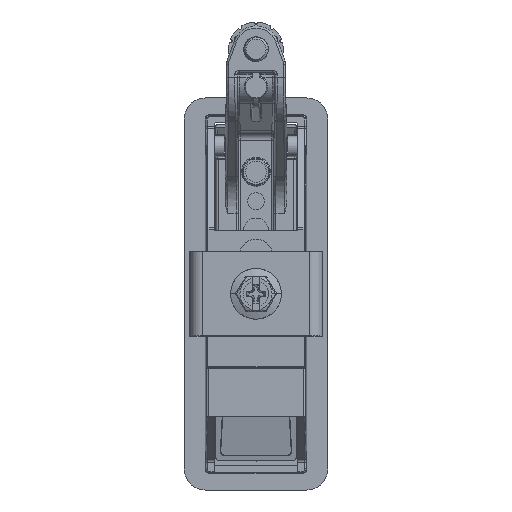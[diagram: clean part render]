
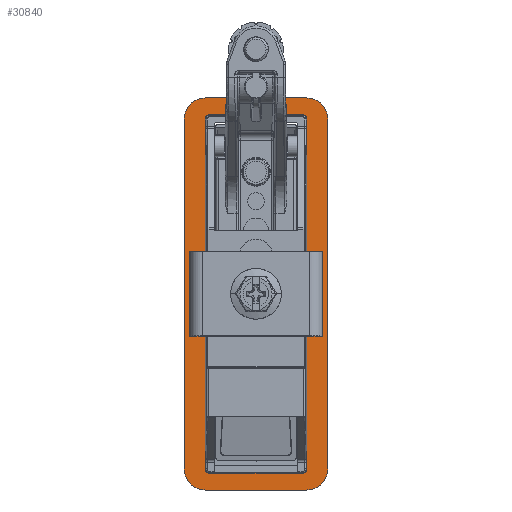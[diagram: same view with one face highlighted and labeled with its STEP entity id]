
A CAD part, top view. The second image highlights one B-rep face of the part: STEP entity #30840.
In plain terms, the highlighted planar face has unit normal (0, 0, 1).
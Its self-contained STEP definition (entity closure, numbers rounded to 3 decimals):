
#630 = AXIS2_PLACEMENT_3D ( 'NONE', #6444, #35093, #12991 ) ;
#750 = VERTEX_POINT ( 'NONE', #17370 ) ;
#922 = CARTESIAN_POINT ( 'NONE',  ( 12., -46.5, 1. ) ) ;
#2091 = LINE ( 'NONE', #24186, #14002 ) ;
#2219 = CARTESIAN_POINT ( 'NONE',  ( 12., 41.5, 1. ) ) ;
#2425 = CARTESIAN_POINT ( 'NONE',  ( 17., 41.5, 1. ) ) ;
#3526 = CARTESIAN_POINT ( 'NONE',  ( -11., -42.5, 1. ) ) ;
#3669 = VERTEX_POINT ( 'NONE', #37555 ) ;
#3930 = ORIENTED_EDGE ( 'NONE', *, *, #30262, .T. ) ;
#4011 = DIRECTION ( 'NONE',  ( 0., 0., 1. ) ) ;
#4304 = CARTESIAN_POINT ( 'NONE',  ( 12., -41.5, 1. ) ) ;
#4394 = ORIENTED_EDGE ( 'NONE', *, *, #37923, .T. ) ;
#4487 = CARTESIAN_POINT ( 'NONE',  ( -11., -41.5, 1. ) ) ;
#4649 = VECTOR ( 'NONE', #7349, 1000. ) ;
#5471 = LINE ( 'NONE', #34110, #17605 ) ;
#5675 = CARTESIAN_POINT ( 'NONE',  ( 12., -41.5, 1. ) ) ;
#5739 = DIRECTION ( 'NONE',  ( -1., 0., 0. ) ) ;
#5768 = ORIENTED_EDGE ( 'NONE', *, *, #13887, .T. ) ;
#5963 = FACE_BOUND ( 'NONE', #36370, .T. ) ;
#6444 = CARTESIAN_POINT ( 'NONE',  ( 11., 41.5, 1. ) ) ;
#6452 = DIRECTION ( 'NONE',  ( 0., 1., 0. ) ) ;
#7030 = AXIS2_PLACEMENT_3D ( 'NONE', #35106, #4011, #6452 ) ;
#7349 = DIRECTION ( 'NONE',  ( -1., 0., 0. ) ) ;
#7588 = AXIS2_PLACEMENT_3D ( 'NONE', #18773, #47455, #25308 ) ;
#7814 = CARTESIAN_POINT ( 'NONE',  ( -12., -41.5, 1. ) ) ;
#8811 = AXIS2_PLACEMENT_3D ( 'NONE', #10228, #38843, #16737 ) ;
#9766 = CIRCLE ( 'NONE', #630, 1. ) ;
#10152 = EDGE_CURVE ( 'NONE', #38081, #22029, #43141, .T. ) ;
#10228 = CARTESIAN_POINT ( 'NONE',  ( 12., -41.5, 1. ) ) ;
#11887 = CARTESIAN_POINT ( 'NONE',  ( -11., -42.5, 1. ) ) ;
#11891 = EDGE_CURVE ( 'NONE', #35562, #35545, #49911, .T. ) ;
#12051 = DIRECTION ( 'NONE',  ( 0., -1., 0. ) ) ;
#12991 = DIRECTION ( 'NONE',  ( 0., 1., 0. ) ) ;
#13887 = EDGE_CURVE ( 'NONE', #750, #38081, #42681, .T. ) ;
#14002 = VECTOR ( 'NONE', #15208, 1000. ) ;
#14026 = CARTESIAN_POINT ( 'NONE',  ( -17., 41.5, 1. ) ) ;
#14177 = PLANE ( 'NONE',  #23864 ) ;
#14601 = DIRECTION ( 'NONE',  ( 0., 0., 1. ) ) ;
#14663 = VERTEX_POINT ( 'NONE', #11887 ) ;
#15208 = DIRECTION ( 'NONE',  ( 0., 1., 0. ) ) ;
#15614 = ORIENTED_EDGE ( 'NONE', *, *, #11891, .T. ) ;
#15817 = EDGE_CURVE ( 'NONE', #14663, #25961, #44097, .T. ) ;
#15856 = ORIENTED_EDGE ( 'NONE', *, *, #28034, .F. ) ;
#16107 = CIRCLE ( 'NONE', #7030, 5. ) ;
#16339 = LINE ( 'NONE', #29423, #4649 ) ;
#16737 = DIRECTION ( 'NONE',  ( 0., -1., 0. ) ) ;
#16999 = CARTESIAN_POINT ( 'NONE',  ( 12., 41.5, 1. ) ) ;
#17229 = LINE ( 'NONE', #45889, #39303 ) ;
#17370 = CARTESIAN_POINT ( 'NONE',  ( -17., 41.5, 1. ) ) ;
#17605 = VECTOR ( 'NONE', #12051, 1000. ) ;
#17835 = EDGE_CURVE ( 'NONE', #22784, #46244, #32935, .T. ) ;
#18484 = VECTOR ( 'NONE', #26346, 1000. ) ;
#18773 = CARTESIAN_POINT ( 'NONE',  ( 11., -41.5, 1. ) ) ;
#20323 = EDGE_LOOP ( 'NONE', ( #23500, #4394, #5768, #47313, #28128, #29515, #42354, #38769 ) ) ;
#20700 = DIRECTION ( 'NONE',  ( 0., 0., 1. ) ) ;
#21278 = EDGE_CURVE ( 'NONE', #27610, #22311, #16339, .T. ) ;
#21323 = CIRCLE ( 'NONE', #7588, 1. ) ;
#21471 = DIRECTION ( 'NONE',  ( 0., 0., -1. ) ) ;
#22029 = VERTEX_POINT ( 'NONE', #34589 ) ;
#22311 = VERTEX_POINT ( 'NONE', #22634 ) ;
#22634 = CARTESIAN_POINT ( 'NONE',  ( -12., 46.5, 1. ) ) ;
#22784 = VERTEX_POINT ( 'NONE', #5675 ) ;
#23500 = ORIENTED_EDGE ( 'NONE', *, *, #21278, .T. ) ;
#23752 = DIRECTION ( 'NONE',  ( 1., 0., 0. ) ) ;
#23757 = VERTEX_POINT ( 'NONE', #29059 ) ;
#23864 = AXIS2_PLACEMENT_3D ( 'NONE', #42821, #20700, #29709 ) ;
#24186 = CARTESIAN_POINT ( 'NONE',  ( 17., -41.5, 1. ) ) ;
#24655 = CARTESIAN_POINT ( 'NONE',  ( -12., 41.5, 1. ) ) ;
#24830 = VECTOR ( 'NONE', #36130, 1000. ) ;
#25308 = DIRECTION ( 'NONE',  ( 1., 0., 0. ) ) ;
#25522 = CARTESIAN_POINT ( 'NONE',  ( 12., 46.5, 1. ) ) ;
#25579 = LINE ( 'NONE', #3526, #49014 ) ;
#25602 = AXIS2_PLACEMENT_3D ( 'NONE', #2219, #33335, #30866 ) ;
#25961 = VERTEX_POINT ( 'NONE', #7814 ) ;
#26275 = CIRCLE ( 'NONE', #8811, 5. ) ;
#26346 = DIRECTION ( 'NONE',  ( 0., 1., 0. ) ) ;
#26425 = EDGE_CURVE ( 'NONE', #27063, #27610, #30015, .T. ) ;
#26542 = DIRECTION ( 'NONE',  ( 0., 0., -1. ) ) ;
#27063 = VERTEX_POINT ( 'NONE', #2425 ) ;
#27309 = VERTEX_POINT ( 'NONE', #922 ) ;
#27610 = VERTEX_POINT ( 'NONE', #25522 ) ;
#27655 = ORIENTED_EDGE ( 'NONE', *, *, #31316, .F. ) ;
#27850 = CARTESIAN_POINT ( 'NONE',  ( 11., 42.5, 1. ) ) ;
#27927 = CARTESIAN_POINT ( 'NONE',  ( -11., 42.5, 1. ) ) ;
#28034 = EDGE_CURVE ( 'NONE', #14663, #3669, #25579, .T. ) ;
#28128 = ORIENTED_EDGE ( 'NONE', *, *, #38885, .T. ) ;
#29059 = CARTESIAN_POINT ( 'NONE',  ( 11., 42.5, 1. ) ) ;
#29423 = CARTESIAN_POINT ( 'NONE',  ( 12., 46.5, 1. ) ) ;
#29515 = ORIENTED_EDGE ( 'NONE', *, *, #39718, .T. ) ;
#29709 = DIRECTION ( 'NONE',  ( 1., 0., 0. ) ) ;
#30015 = CIRCLE ( 'NONE', #25602, 5. ) ;
#30253 = VECTOR ( 'NONE', #5739, 1000. ) ;
#30262 = EDGE_CURVE ( 'NONE', #22784, #3669, #21323, .T. ) ;
#30681 = VERTEX_POINT ( 'NONE', #49271 ) ;
#30840 = ADVANCED_FACE ( 'NONE', ( #43629, #5963 ), #14177, .T. ) ;
#30866 = DIRECTION ( 'NONE',  ( 1., 0., 0. ) ) ;
#31316 = EDGE_CURVE ( 'NONE', #35562, #25961, #5471, .T. ) ;
#32177 = DIRECTION ( 'NONE',  ( 1., 0., 0. ) ) ;
#32935 = LINE ( 'NONE', #4304, #18484 ) ;
#33335 = DIRECTION ( 'NONE',  ( 0., 0., 1. ) ) ;
#34110 = CARTESIAN_POINT ( 'NONE',  ( -12., 41.5, 1. ) ) ;
#34589 = CARTESIAN_POINT ( 'NONE',  ( -12., -46.5, 1. ) ) ;
#35093 = DIRECTION ( 'NONE',  ( 0., 0., -1. ) ) ;
#35106 = CARTESIAN_POINT ( 'NONE',  ( -12., 41.5, 1. ) ) ;
#35153 = ORIENTED_EDGE ( 'NONE', *, *, #15817, .T. ) ;
#35545 = VERTEX_POINT ( 'NONE', #27927 ) ;
#35562 = VERTEX_POINT ( 'NONE', #24655 ) ;
#36130 = DIRECTION ( 'NONE',  ( 0., -1., 0. ) ) ;
#36370 = EDGE_LOOP ( 'NONE', ( #15614, #37452, #49429, #40048, #3930, #15856, #35153, #27655 ) ) ;
#36684 = CARTESIAN_POINT ( 'NONE',  ( -17., -41.5, 1. ) ) ;
#36685 = CARTESIAN_POINT ( 'NONE',  ( -12., -41.5, 1. ) ) ;
#37452 = ORIENTED_EDGE ( 'NONE', *, *, #45136, .F. ) ;
#37555 = CARTESIAN_POINT ( 'NONE',  ( 11., -42.5, 1. ) ) ;
#37923 = EDGE_CURVE ( 'NONE', #22311, #750, #16107, .T. ) ;
#38081 = VERTEX_POINT ( 'NONE', #36684 ) ;
#38435 = AXIS2_PLACEMENT_3D ( 'NONE', #36685, #14601, #43251 ) ;
#38769 = ORIENTED_EDGE ( 'NONE', *, *, #26425, .T. ) ;
#38843 = DIRECTION ( 'NONE',  ( 0., 0., 1. ) ) ;
#38885 = EDGE_CURVE ( 'NONE', #22029, #27309, #17229, .T. ) ;
#39303 = VECTOR ( 'NONE', #23752, 1000. ) ;
#39718 = EDGE_CURVE ( 'NONE', #27309, #30681, #26275, .T. ) ;
#40048 = ORIENTED_EDGE ( 'NONE', *, *, #17835, .F. ) ;
#42354 = ORIENTED_EDGE ( 'NONE', *, *, #47890, .T. ) ;
#42361 = AXIS2_PLACEMENT_3D ( 'NONE', #50147, #21471, #43593 ) ;
#42681 = LINE ( 'NONE', #14026, #24830 ) ;
#42821 = CARTESIAN_POINT ( 'NONE',  ( 0., 0., 1. ) ) ;
#43141 = CIRCLE ( 'NONE', #38435, 5. ) ;
#43251 = DIRECTION ( 'NONE',  ( -1., 0., 0. ) ) ;
#43593 = DIRECTION ( 'NONE',  ( -1., 0., 0. ) ) ;
#43629 = FACE_OUTER_BOUND ( 'NONE', #20323, .T. ) ;
#44097 = CIRCLE ( 'NONE', #47255, 1. ) ;
#44605 = EDGE_CURVE ( 'NONE', #23757, #46244, #9766, .T. ) ;
#45136 = EDGE_CURVE ( 'NONE', #23757, #35545, #49951, .T. ) ;
#45889 = CARTESIAN_POINT ( 'NONE',  ( -12., -46.5, 1. ) ) ;
#46244 = VERTEX_POINT ( 'NONE', #16999 ) ;
#47255 = AXIS2_PLACEMENT_3D ( 'NONE', #4487, #26542, #48681 ) ;
#47313 = ORIENTED_EDGE ( 'NONE', *, *, #10152, .T. ) ;
#47455 = DIRECTION ( 'NONE',  ( 0., 0., -1. ) ) ;
#47890 = EDGE_CURVE ( 'NONE', #30681, #27063, #2091, .T. ) ;
#48681 = DIRECTION ( 'NONE',  ( 0., -1., 0. ) ) ;
#49014 = VECTOR ( 'NONE', #32177, 1000. ) ;
#49271 = CARTESIAN_POINT ( 'NONE',  ( 17., -41.5, 1. ) ) ;
#49429 = ORIENTED_EDGE ( 'NONE', *, *, #44605, .T. ) ;
#49911 = CIRCLE ( 'NONE', #42361, 1. ) ;
#49951 = LINE ( 'NONE', #27850, #30253 ) ;
#50147 = CARTESIAN_POINT ( 'NONE',  ( -11., 41.5, 1. ) ) ;
